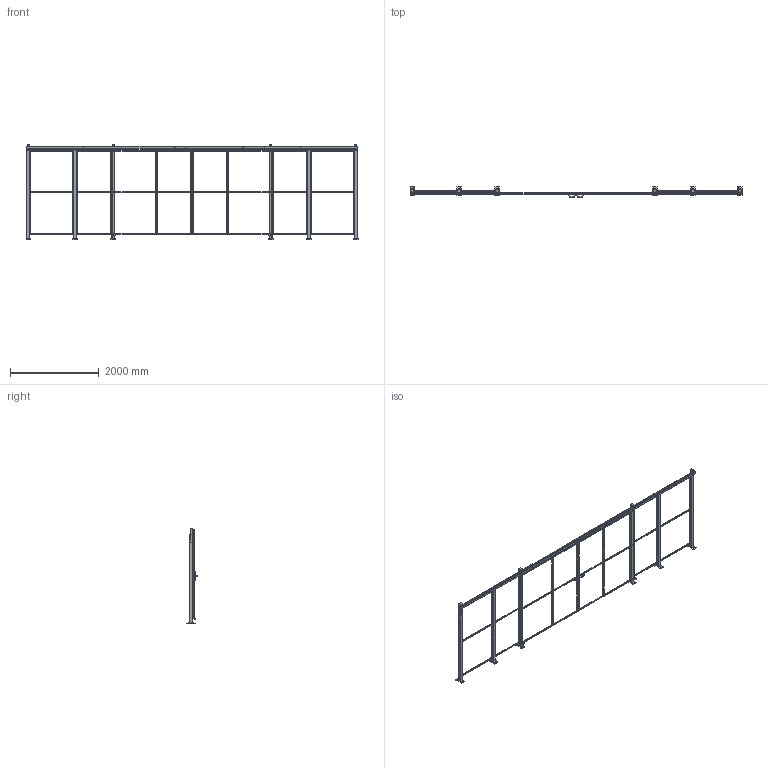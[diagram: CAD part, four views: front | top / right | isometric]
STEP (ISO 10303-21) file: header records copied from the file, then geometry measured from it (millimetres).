
FILE_DESCRIPTION(/* description */ (''),/* implementation_level */ '2;1');
FILE_NAME(/* name */ 'C:\SafeGuarding\ELABORATI\HOR§VED_2025-03-31-13-18-12.stp',/* time_stamp */ '2025-03-31T13:18:18+02:00',/* author */ ('admin'),/* organization */ (''),/* preprocessor_version */ 'ST-DEVELOPER v18.1',/* originating_system */ 'AutoCAD Mechanical',/* authorisation */ '');
FILE_SCHEMA (('AUTOMOTIVE_DESIGN { 1 0 10303 214 3 1 1 }','MODEL_BASED_INTEGRATED_MANUFACTURING_SCHEMA'));
Length unit declared in the file: millimetre
Products named in the file (5): Product; R_VFPA.REPE20.10001900; P_VFMA.V260SDU.2020; R_VFPA.REPE20.08001900; P_VFMA.V360SDU.2020
Assembly tree (14 placements, depth 2):
  Product
    R_VFPA.REPE20.10001900  x4
    R_VFPA.REPE20.08001900  x4
    P_VFMA.V260SDU.2020  x2
    P_VFMA.V360SDU.2020  x4
Bounding box: 7500 x 235.91 x 2154 mm (x, y, z)
Volume: 80423794 mm3; surface area: 11856103.4 mm2
Topology: 84 solids, 106 shells, 874 faces, 2969 edges, 3230 vertices
Faces by surface type: plane 810, cylinder 64
Full cylindrical faces by diameter (mm): 11 x24, 12 x4, 14 x4, 15 x8, 40 x8
Entity records: 20354 total; most frequent: CARTESIAN_POINT 4324, DIRECTION 3051, ORIENTED_EDGE 2996, EDGE_CURVE 1596, LINE 1481, VECTOR 1481, VERTEX_POINT 1148, AXIS2_PLACEMENT_3D 785
